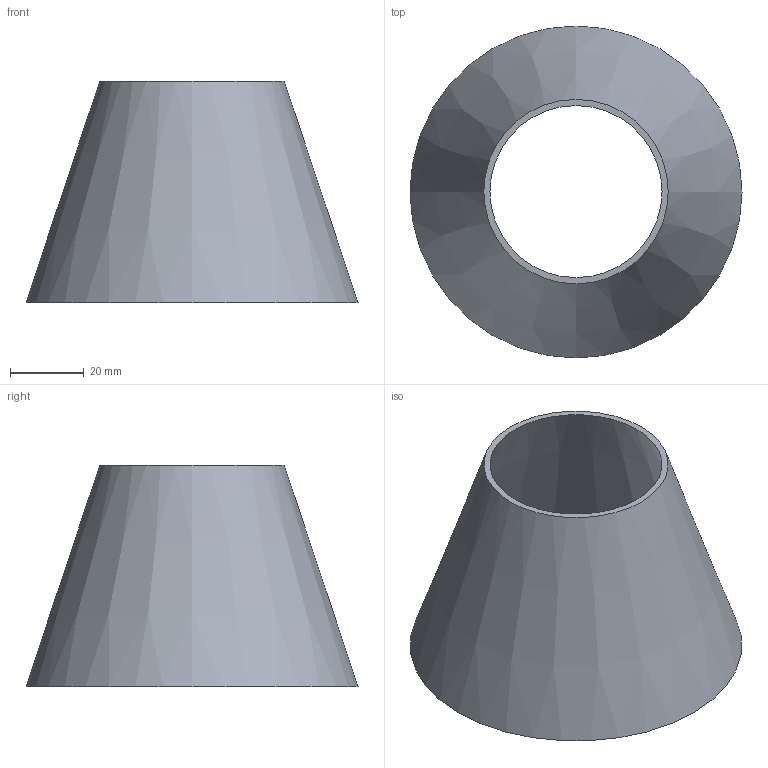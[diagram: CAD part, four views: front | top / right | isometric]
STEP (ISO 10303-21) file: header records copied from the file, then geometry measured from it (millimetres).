
FILE_DESCRIPTION(('Open CASCADE Model'),'2;1');
FILE_NAME('Open CASCADE Shape Model','2026-10-16T18:52:00',('Author'),( 'Open CASCADE'),'Open CASCADE STEP processor 7.8','Open CASCADE 7.8' ,'Unknown');
FILE_SCHEMA(('AUTOMOTIVE_DESIGN { 1 0 10303 214 1 1 1 1 }'));
Length unit declared in the file: millimetre
Products named in the file (1): Open CASCADE STEP translator 7.8 57
Bounding box: 90 x 90 x 60 mm (x, y, z)
Volume: 26034.2 mm3; surface area: 27874.8 mm2
Topology: 1 solids, 1 shells, 4 faces, 6 edges, 4 vertices
Faces by surface type: cone 2, plane 2
Entity records: 180 total; most frequent: CARTESIAN_POINT 33, DIRECTION 26, ORIENTED_EDGE 12, PCURVE 12, DEFINITIONAL_REPRESENTATION 12, AXIS2_PLACEMENT_3D 9, CIRCLE 8, FACE_BOUND 6
